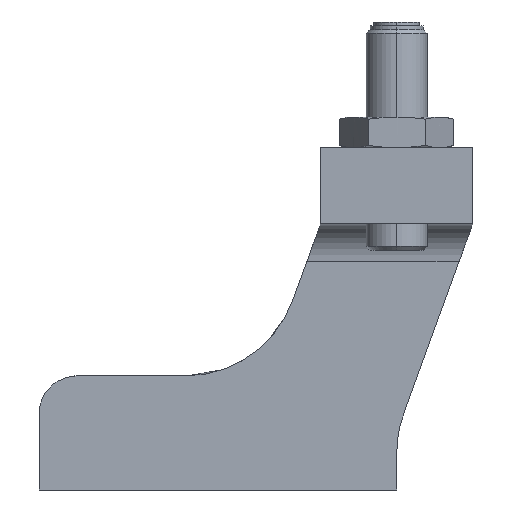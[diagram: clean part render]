
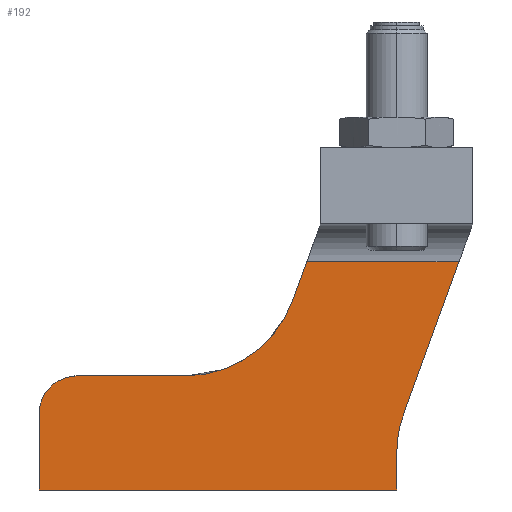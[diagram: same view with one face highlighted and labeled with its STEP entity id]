
A CAD part, front view. The second image highlights one B-rep face of the part: STEP entity #192.
In plain terms, the highlighted planar face has unit normal (0, -1, 0).
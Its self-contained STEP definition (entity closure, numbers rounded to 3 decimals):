
#192=ADVANCED_FACE('Solid.1 (  with JELE 1676 : from *SOL132904 - wsp *MASTER -  ) ( Brep from *SOL132904 )',(#481),#482,.F.);
#481=FACE_OUTER_BOUND('',#909,.T.);
#482=PLANE('',#910);
#909=EDGE_LOOP('',(#1318,#1319,#1320,#1321,#1322,#1323,#1324,#1325,#1326,#1327));
#910=AXIS2_PLACEMENT_3D('',#1328,#1329,#1330);
#1318=ORIENTED_EDGE('',*,*,#2500,.F.);
#1319=ORIENTED_EDGE('',*,*,#2501,.T.);
#1320=ORIENTED_EDGE('',*,*,#2502,.F.);
#1321=ORIENTED_EDGE('',*,*,#2503,.F.);
#1322=ORIENTED_EDGE('',*,*,#2504,.F.);
#1323=ORIENTED_EDGE('',*,*,#2505,.T.);
#1324=ORIENTED_EDGE('',*,*,#2506,.F.);
#1325=ORIENTED_EDGE('',*,*,#2507,.T.);
#1326=ORIENTED_EDGE('',*,*,#2508,.T.);
#1327=ORIENTED_EDGE('',*,*,#2509,.F.);
#1328=CARTESIAN_POINT('',(0.0,-8.0,0.0));
#1329=DIRECTION('',(0.0,1.0,0.0));
#1330=DIRECTION('',(0.0,0.0,-1.0));
#2500=EDGE_CURVE('',#2980,#2981,#2982,.T.);
#2501=EDGE_CURVE('',#2980,#2983,#2984,.T.);
#2502=EDGE_CURVE('',#2985,#2983,#2986,.F.);
#2503=EDGE_CURVE('',#2987,#2985,#2988,.T.);
#2504=EDGE_CURVE('',#2989,#2987,#2990,.T.);
#2505=EDGE_CURVE('',#2989,#2991,#2992,.T.);
#2506=EDGE_CURVE('',#2993,#2991,#2994,.F.);
#2507=EDGE_CURVE('',#2993,#2995,#2996,.T.);
#2508=EDGE_CURVE('',#2995,#2997,#2998,.F.);
#2509=EDGE_CURVE('',#2981,#2997,#2999,.T.);
#2980=VERTEX_POINT('',#3685);
#2981=VERTEX_POINT('',#3686);
#2982=LINE('',#3687,#3688);
#2983=VERTEX_POINT('',#3689);
#2984=LINE('',#3690,#3691);
#2985=VERTEX_POINT('',#3692);
#2986=CIRCLE('',#3693,15.0);
#2987=VERTEX_POINT('',#3694);
#2988=LINE('',#3695,#3696);
#2989=VERTEX_POINT('',#3697);
#2990=LINE('',#3698,#3699);
#2991=VERTEX_POINT('',#3700);
#2992=LINE('',#3701,#3702);
#2993=VERTEX_POINT('',#3703);
#2994=CIRCLE('',#3704,15.0);
#2995=VERTEX_POINT('',#3705);
#2996=LINE('',#3706,#3707);
#2997=VERTEX_POINT('',#3708);
#2998=CIRCLE('',#3709,5.0);
#2999=LINE('',#3710,#3711);
#3685=CARTESIAN_POINT('',(-60.0,-8.0,-20.0));
#3686=CARTESIAN_POINT('',(-107.0,-8.0,-20.0));
#3687=CARTESIAN_POINT('',(-83.5,-8.0,-20.0));
#3688=VECTOR('',#4938,1.0);
#3689=CARTESIAN_POINT('',(-60.0,-8.0,-15.12));
#3690=CARTESIAN_POINT('',(-60.0,-8.0,-17.56));
#3691=VECTOR('',#4939,1.0);
#3692=CARTESIAN_POINT('',(-59.095,-8.0,-9.989));
#3693=AXIS2_PLACEMENT_3D('',#4940,#4941,#4942);
#3694=CARTESIAN_POINT('',(-51.82,-8.0,10.0));
#3695=CARTESIAN_POINT('',(-55.458,-8.0,0.005));
#3696=VECTOR('',#4943,1.0);
#3697=CARTESIAN_POINT('',(-71.82,-8.0,10.0));
#3698=CARTESIAN_POINT('',(-61.82,-8.0,10.0));
#3699=VECTOR('',#4944,1.0);
#3700=CARTESIAN_POINT('',(-73.687,-8.0,4.87));
#3701=CARTESIAN_POINT('',(-72.753,-8.0,7.435));
#3702=VECTOR('',#4945,1.0);
#3703=CARTESIAN_POINT('',(-87.783,-8.0,-5.0));
#3704=AXIS2_PLACEMENT_3D('',#4946,#4947,#4948);
#3705=CARTESIAN_POINT('',(-102.0,-8.0,-5.0));
#3706=CARTESIAN_POINT('',(-94.891,-8.0,-5.0));
#3707=VECTOR('',#4949,1.0);
#3708=CARTESIAN_POINT('',(-107.0,-8.0,-10.0));
#3709=AXIS2_PLACEMENT_3D('',#4950,#4951,#4952);
#3710=CARTESIAN_POINT('',(-107.0,-8.0,-15.0));
#3711=VECTOR('',#4953,1.0);
#4938=DIRECTION('',(-1.0,0.0,0.0));
#4939=DIRECTION('',(0.0,0.0,1.0));
#4940=CARTESIAN_POINT('',(-45.0,-8.0,-15.12));
#4941=DIRECTION('',(0.0,1.0,0.0));
#4942=DIRECTION('',(0.0,0.0,-1.0));
#4943=DIRECTION('',(-0.342,0.0,-0.94));
#4944=DIRECTION('',(1.0,0.0,0.0));
#4945=DIRECTION('',(-0.342,0.0,-0.94));
#4946=CARTESIAN_POINT('',(-87.783,-8.0,10.0));
#4947=DIRECTION('',(0.0,1.0,0.0));
#4948=DIRECTION('',(0.0,0.0,-1.0));
#4949=DIRECTION('',(-1.0,0.0,0.0));
#4950=CARTESIAN_POINT('',(-102.0,-8.0,-10.0));
#4951=DIRECTION('',(0.0,1.0,0.0));
#4952=DIRECTION('',(0.0,0.0,-1.0));
#4953=DIRECTION('',(0.0,0.0,1.0));
